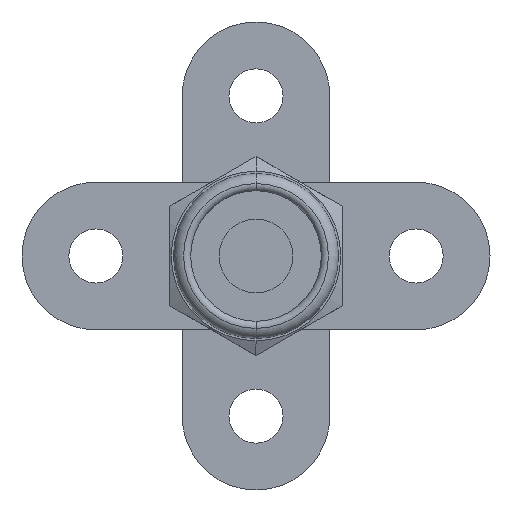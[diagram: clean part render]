
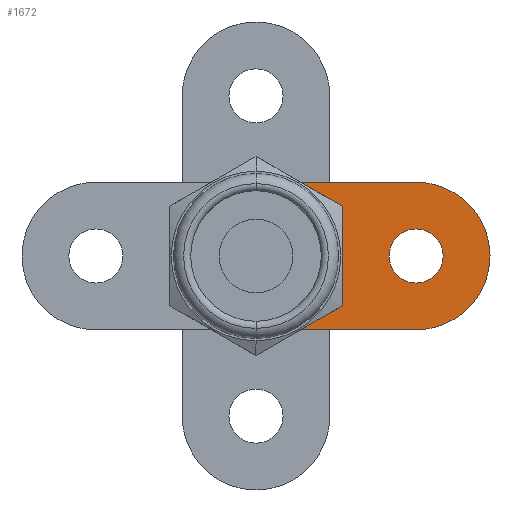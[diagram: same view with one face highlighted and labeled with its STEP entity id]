
A CAD part, front view. The second image highlights one B-rep face of the part: STEP entity #1672.
In plain terms, the highlighted planar face has unit normal (0, -1, 0).
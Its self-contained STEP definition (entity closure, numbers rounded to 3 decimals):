
#1 = FACE_BOUND ( 'NONE', #1889, .T. ) ;
#9 = CARTESIAN_POINT ( 'NONE',  ( -6.5, -4.4, 3. ) ) ;
#17 = VERTEX_POINT ( 'NONE', #354 ) ;
#19 = LINE ( 'NONE', #9, #1872 ) ;
#185 = VERTEX_POINT ( 'NONE', #1011 ) ;
#320 = CARTESIAN_POINT ( 'NONE',  ( -6.5, -4.4, -3. ) ) ;
#354 = CARTESIAN_POINT ( 'NONE',  ( 6.5, -4.4, 1.1 ) ) ;
#393 = CARTESIAN_POINT ( 'NONE',  ( 0., -4.4, 3. ) ) ;
#471 = DIRECTION ( 'NONE',  ( 0., -1., 0. ) ) ;
#487 = DIRECTION ( 'NONE',  ( 0., 0., -1. ) ) ;
#495 = LINE ( 'NONE', #320, #659 ) ;
#505 = CARTESIAN_POINT ( 'NONE',  ( 0., -4.4, 0. ) ) ;
#563 = CARTESIAN_POINT ( 'NONE',  ( -6.5, -4.4, 0. ) ) ;
#588 = EDGE_CURVE ( 'NONE', #1845, #17, #1223, .T. ) ;
#649 = ORIENTED_EDGE ( 'NONE', *, *, #1517, .F. ) ;
#659 = VECTOR ( 'NONE', #1794, 1000. ) ;
#716 = CARTESIAN_POINT ( 'NONE',  ( 0., -4.4, -3. ) ) ;
#739 = DIRECTION ( 'NONE',  ( 0., -1., 0. ) ) ;
#757 = FACE_OUTER_BOUND ( 'NONE', #901, .T. ) ;
#762 = DIRECTION ( 'NONE',  ( 0., 0., -1. ) ) ;
#858 = AXIS2_PLACEMENT_3D ( 'NONE', #1292, #1514, #2263 ) ;
#876 = ORIENTED_EDGE ( 'NONE', *, *, #1951, .T. ) ;
#901 = EDGE_LOOP ( 'NONE', ( #1175, #1718, #876, #1568 ) ) ;
#968 = AXIS2_PLACEMENT_3D ( 'NONE', #505, #1254, #1981 ) ;
#979 = DIRECTION ( 'NONE',  ( -1., 0., 0. ) ) ;
#1011 = CARTESIAN_POINT ( 'NONE',  ( 6.5, -4.4, -3. ) ) ;
#1056 = CIRCLE ( 'NONE', #858, 3. ) ;
#1133 = CARTESIAN_POINT ( 'NONE',  ( 6.5, -4.4, 0. ) ) ;
#1175 = ORIENTED_EDGE ( 'NONE', *, *, #1781, .F. ) ;
#1223 = CIRCLE ( 'NONE', #1769, 1.1 ) ;
#1254 = DIRECTION ( 'NONE',  ( 0., -1., 0. ) ) ;
#1292 = CARTESIAN_POINT ( 'NONE',  ( 6.5, -4.4, 0. ) ) ;
#1325 = CIRCLE ( 'NONE', #2411, 1.1 ) ;
#1504 = DIRECTION ( 'NONE',  ( 0., -1., 0. ) ) ;
#1514 = DIRECTION ( 'NONE',  ( 0., -1., 0. ) ) ;
#1515 = CIRCLE ( 'NONE', #968, 3. ) ;
#1517 = EDGE_CURVE ( 'NONE', #17, #1845, #1325, .T. ) ;
#1568 = ORIENTED_EDGE ( 'NONE', *, *, #1696, .T. ) ;
#1609 = CARTESIAN_POINT ( 'NONE',  ( 6.5, -4.4, 3. ) ) ;
#1672 = ADVANCED_FACE ( 'NONE', ( #1, #757 ), #2244, .T. ) ;
#1696 = EDGE_CURVE ( 'NONE', #1837, #2378, #19, .T. ) ;
#1701 = DIRECTION ( 'NONE',  ( 0., 0., -1. ) ) ;
#1718 = ORIENTED_EDGE ( 'NONE', *, *, #1783, .T. ) ;
#1769 = AXIS2_PLACEMENT_3D ( 'NONE', #1784, #471, #487 ) ;
#1781 = EDGE_CURVE ( 'NONE', #2381, #2378, #1515, .T. ) ;
#1783 = EDGE_CURVE ( 'NONE', #2381, #185, #495, .T. ) ;
#1784 = CARTESIAN_POINT ( 'NONE',  ( 6.5, -4.4, 0. ) ) ;
#1794 = DIRECTION ( 'NONE',  ( 1., 0., 0. ) ) ;
#1798 = AXIS2_PLACEMENT_3D ( 'NONE', #563, #1504, #1701 ) ;
#1837 = VERTEX_POINT ( 'NONE', #1609 ) ;
#1845 = VERTEX_POINT ( 'NONE', #2341 ) ;
#1872 = VECTOR ( 'NONE', #979, 1000. ) ;
#1889 = EDGE_LOOP ( 'NONE', ( #649, #2134 ) ) ;
#1951 = EDGE_CURVE ( 'NONE', #185, #1837, #1056, .T. ) ;
#1981 = DIRECTION ( 'NONE',  ( 0., 0., -1. ) ) ;
#2134 = ORIENTED_EDGE ( 'NONE', *, *, #588, .F. ) ;
#2244 = PLANE ( 'NONE',  #1798 ) ;
#2263 = DIRECTION ( 'NONE',  ( 0., 0., -1. ) ) ;
#2341 = CARTESIAN_POINT ( 'NONE',  ( 6.5, -4.4, -1.1 ) ) ;
#2378 = VERTEX_POINT ( 'NONE', #393 ) ;
#2381 = VERTEX_POINT ( 'NONE', #716 ) ;
#2411 = AXIS2_PLACEMENT_3D ( 'NONE', #1133, #739, #762 ) ;
